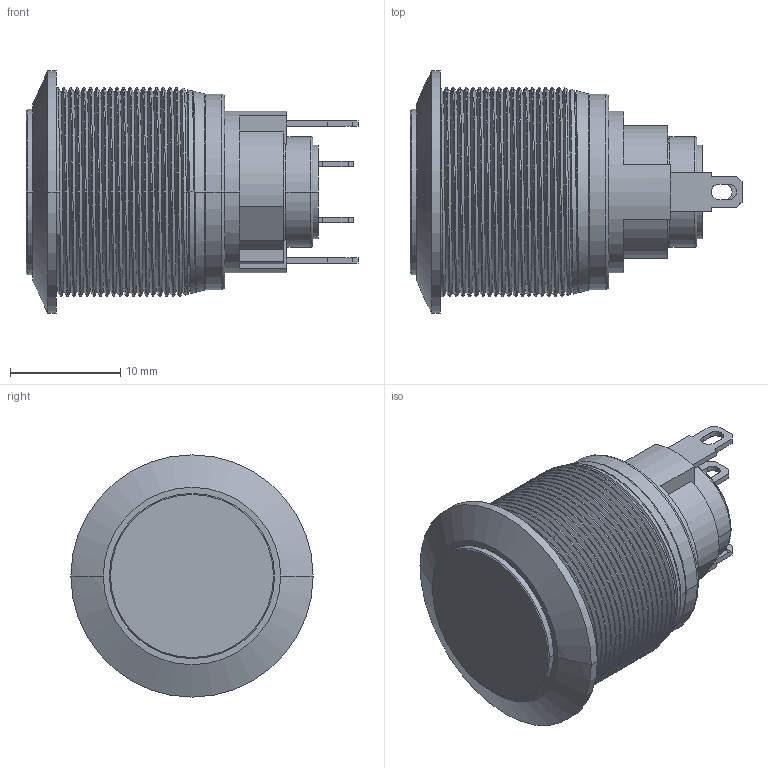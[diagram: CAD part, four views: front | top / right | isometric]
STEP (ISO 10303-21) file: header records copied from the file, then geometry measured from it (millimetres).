
FILE_DESCRIPTION((''),'2;1');
FILE_NAME('AV09100EA200_SW0002','2010-09-29T',('jlgachon'),(''),'PRO/ENGINEER BY PARAMETRIC TECHNOLOGY CORPORATION, 2009440','PRO/ENGINEER BY PARAMETRIC TECHNOLOGY CORPORATION, 2009440','');
FILE_SCHEMA(('CONFIG_CONTROL_DESIGN'));
Length unit declared in the file: millimetre
Products named in the file (1): AV09100EA200_SW0002
Bounding box: 30.15 x 22 x 22 mm (x, y, z)
Surface area: 5301.7 mm2 (no closed solid volume)
Topology: 0 solids, 11 shells, 415 faces, 1312 edges, 879 vertices
Faces by surface type: plane 247, cylinder 117, cone 19, torus 14, bspline 12, sphere 6
Entity records: 23419 total; most frequent: CARTESIAN_POINT 11964, ORIENTED_EDGE 2337, DIRECTION 2258, EDGE_CURVE 1308, VECTOR 896, LINE 896, VERTEX_POINT 879, AXIS2_PLACEMENT_3D 681
